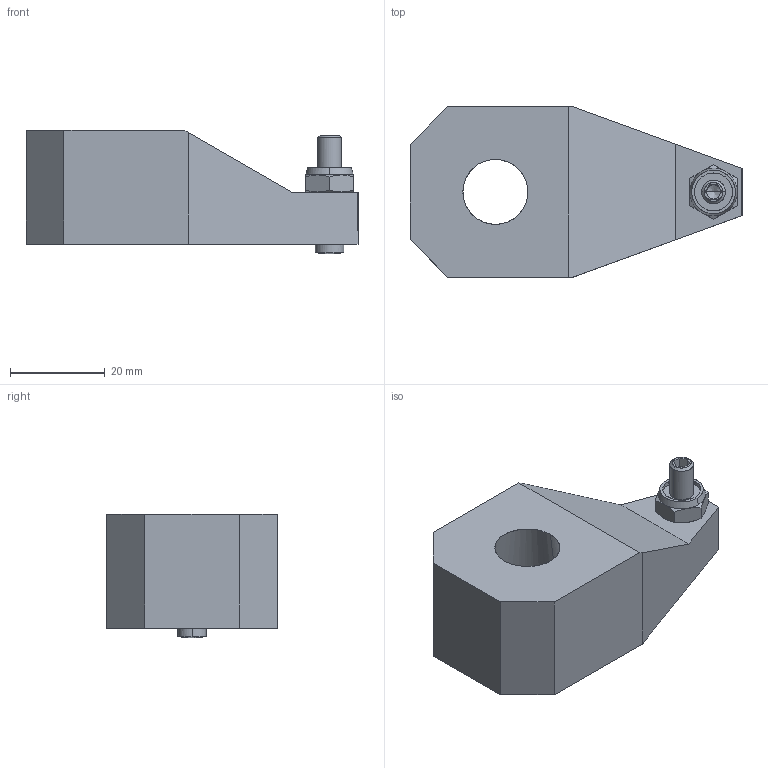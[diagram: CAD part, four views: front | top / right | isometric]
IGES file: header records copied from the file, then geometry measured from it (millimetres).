
Start section: Comment
Global section: file name: jsp32_clamparm.igs; native system:  By Spatial Corp.; preprocessor: XPlus GENERIC/IGES 3.0; author: Author; organization: Title; date: 20080526.131206; units: millimetre
Bounding box: 70 x 36 x 26 mm (x, y, z)
Surface area: 9438.8 mm2 (no closed solid volume)
Topology: 0 solids, 0 shells, 74 faces, 342 edges, 336 vertices
Faces by surface type: bspline 74
